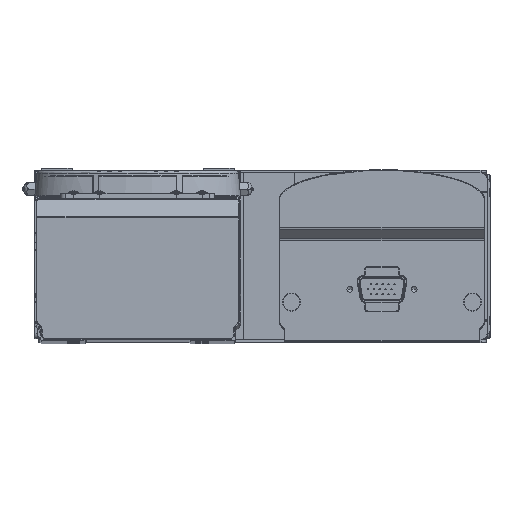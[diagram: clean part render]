
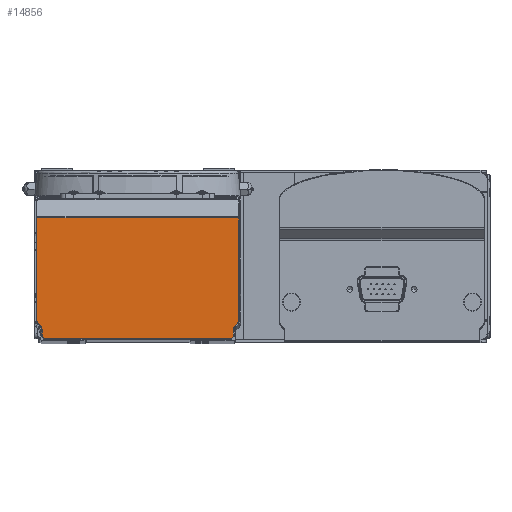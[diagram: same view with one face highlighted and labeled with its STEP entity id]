
A CAD part, top view. The second image highlights one B-rep face of the part: STEP entity #14856.
In plain terms, the highlighted planar face has unit normal (0, 0, 1).
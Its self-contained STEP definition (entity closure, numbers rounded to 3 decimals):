
#615 = VECTOR ( 'NONE', #140060, 1000. ) ;
#904 = CARTESIAN_POINT ( 'NONE',  ( -38.702, -15.374, 1010. ) ) ;
#3119 = VECTOR ( 'NONE', #106399, 1000. ) ;
#5246 = LINE ( 'NONE', #48528, #22960 ) ;
#5296 = ORIENTED_EDGE ( 'NONE', *, *, #52014, .T. ) ;
#5648 = CARTESIAN_POINT ( 'NONE',  ( -39.2, 25.586, 1010. ) ) ;
#7243 = CARTESIAN_POINT ( 'NONE',  ( 39.5, -17.828, 1010. ) ) ;
#7951 = EDGE_CURVE ( 'NONE', #119888, #96300, #84612, .T. ) ;
#8764 = EDGE_CURVE ( 'NONE', #121553, #95098, #71357, .T. ) ;
#9330 = ORIENTED_EDGE ( 'NONE', *, *, #106676, .T. ) ;
#9962 = ORIENTED_EDGE ( 'NONE', *, *, #99628, .T. ) ;
#10052 = CARTESIAN_POINT ( 'NONE',  ( -36.376, -21.2, 1010. ) ) ;
#10500 = EDGE_CURVE ( 'NONE', #96300, #115341, #69114, .T. ) ;
#11830 = LINE ( 'NONE', #55131, #100243 ) ;
#14856 = ADVANCED_FACE ( 'NONE', ( #25621 ), #68832, .F. ) ;
#14975 = DIRECTION ( 'NONE',  ( 0., 0., -1. ) ) ;
#15242 = DIRECTION ( 'NONE',  ( 0.707, -0.707, 0. ) ) ;
#16020 = CARTESIAN_POINT ( 'NONE',  ( 38.702, -15.374, 1010. ) ) ;
#17266 = ORIENTED_EDGE ( 'NONE', *, *, #47871, .T. ) ;
#17489 = DIRECTION ( 'NONE',  ( 1., 0., 0. ) ) ;
#17974 = DIRECTION ( 'NONE',  ( -1., 0., 0. ) ) ;
#19954 = LINE ( 'NONE', #63217, #3119 ) ;
#20367 = AXIS2_PLACEMENT_3D ( 'NONE', #7243, #50529, #93690 ) ;
#22960 = VECTOR ( 'NONE', #91689, 1000. ) ;
#25282 = EDGE_CURVE ( 'NONE', #59262, #94664, #5246, .T. ) ;
#25554 = DIRECTION ( 'NONE',  ( -1., 0., 0. ) ) ;
#25621 = FACE_OUTER_BOUND ( 'NONE', #36667, .T. ) ;
#28395 = CARTESIAN_POINT ( 'NONE',  ( -37.2, -17.828, 1010. ) ) ;
#28584 = DIRECTION ( 'NONE',  ( 0., -1., 0. ) ) ;
#29966 = ORIENTED_EDGE ( 'NONE', *, *, #7951, .T. ) ;
#30420 = EDGE_CURVE ( 'NONE', #115341, #88671, #130183, .T. ) ;
#30658 = LINE ( 'NONE', #73852, #64216 ) ;
#31113 = DIRECTION ( 'NONE',  ( -1., 0., 0. ) ) ;
#35698 = ORIENTED_EDGE ( 'NONE', *, *, #80623, .T. ) ;
#36667 = EDGE_LOOP ( 'NONE', ( #110383, #53583, #55511, #139529, #29966, #53063, #115733, #5296, #9330, #38387, #9962, #17266, #35698, #139975 ) ) ;
#36997 = CARTESIAN_POINT ( 'NONE',  ( 37.5, -14.172, 1010. ) ) ;
#37943 = CARTESIAN_POINT ( 'NONE',  ( -36.288, -21.288, 1010. ) ) ;
#38387 = ORIENTED_EDGE ( 'NONE', *, *, #8764, .T. ) ;
#40908 = VECTOR ( 'NONE', #31113, 1000. ) ;
#40912 = CARTESIAN_POINT ( 'NONE',  ( 37.874, -16.202, 1010. ) ) ;
#42238 = CIRCLE ( 'NONE', #121398, 1.7 ) ;
#44230 = VERTEX_POINT ( 'NONE', #138049 ) ;
#47871 = EDGE_CURVE ( 'NONE', #123025, #70790, #11830, .T. ) ;
#48528 = CARTESIAN_POINT ( 'NONE',  ( 31.538, -22.538, 1010. ) ) ;
#50529 = DIRECTION ( 'NONE',  ( 0., 0., -1. ) ) ;
#52014 = EDGE_CURVE ( 'NONE', #88671, #111850, #82384, .T. ) ;
#53063 = ORIENTED_EDGE ( 'NONE', *, *, #10500, .T. ) ;
#53386 = VECTOR ( 'NONE', #15242, 1000. ) ;
#53583 = ORIENTED_EDGE ( 'NONE', *, *, #108262, .T. ) ;
#53725 = LINE ( 'NONE', #96877, #615 ) ;
#54436 = CARTESIAN_POINT ( 'NONE',  ( -37.874, -16.202, 1010. ) ) ;
#55131 = CARTESIAN_POINT ( 'NONE',  ( 37.2, 9., 1010. ) ) ;
#55511 = ORIENTED_EDGE ( 'NONE', *, *, #131791, .T. ) ;
#58252 = DIRECTION ( 'NONE',  ( -1., 0., 0. ) ) ;
#59262 = VERTEX_POINT ( 'NONE', #40912 ) ;
#63217 = CARTESIAN_POINT ( 'NONE',  ( 37.288, -20.288, 1010. ) ) ;
#64216 = VECTOR ( 'NONE', #117058, 1000. ) ;
#64698 = VECTOR ( 'NONE', #17489, 1000. ) ;
#65396 = CARTESIAN_POINT ( 'NONE',  ( 37.2, -20.376, 1010. ) ) ;
#67549 = CARTESIAN_POINT ( 'NONE',  ( -37.2, -20.376, 1010. ) ) ;
#68832 = PLANE ( 'NONE',  #122669 ) ;
#69093 = AXIS2_PLACEMENT_3D ( 'NONE', #79396, #122640, #25554 ) ;
#69114 = LINE ( 'NONE', #112322, #53386 ) ;
#70790 = VERTEX_POINT ( 'NONE', #105468 ) ;
#71357 = LINE ( 'NONE', #114575, #64698 ) ;
#71878 = CARTESIAN_POINT ( 'NONE',  ( -37.5, -14.172, 1010. ) ) ;
#73852 = CARTESIAN_POINT ( 'NONE',  ( -39.2, 9., 1010. ) ) ;
#74984 = VECTOR ( 'NONE', #81114, 1000. ) ;
#75313 = EDGE_CURVE ( 'NONE', #94664, #44230, #42238, .T. ) ;
#78278 = VERTEX_POINT ( 'NONE', #5648 ) ;
#79396 = CARTESIAN_POINT ( 'NONE',  ( -39.5, -17.828, 1010. ) ) ;
#80169 = DIRECTION ( 'NONE',  ( 0., 0., 1. ) ) ;
#80623 = EDGE_CURVE ( 'NONE', #70790, #59262, #81500, .T. ) ;
#81114 = DIRECTION ( 'NONE',  ( 0.707, -0.707, 0. ) ) ;
#81500 = CIRCLE ( 'NONE', #20367, 2.3 ) ;
#82384 = LINE ( 'NONE', #125660, #125812 ) ;
#84213 = AXIS2_PLACEMENT_3D ( 'NONE', #71878, #115078, #17974 ) ;
#84612 = CIRCLE ( 'NONE', #84213, 1.7 ) ;
#84898 = LINE ( 'NONE', #128157, #40908 ) ;
#88671 = VERTEX_POINT ( 'NONE', #28395 ) ;
#91493 = CARTESIAN_POINT ( 'NONE',  ( 39.2, 25.586, 1010. ) ) ;
#91689 = DIRECTION ( 'NONE',  ( 0.707, 0.707, 0. ) ) ;
#93690 = DIRECTION ( 'NONE',  ( -1., 0., 0. ) ) ;
#94664 = VERTEX_POINT ( 'NONE', #16020 ) ;
#95098 = VERTEX_POINT ( 'NONE', #124303 ) ;
#96300 = VERTEX_POINT ( 'NONE', #904 ) ;
#96877 = CARTESIAN_POINT ( 'NONE',  ( 39.2, 9., 1010. ) ) ;
#98275 = DIRECTION ( 'NONE',  ( 0., 1., 0. ) ) ;
#99623 = EDGE_CURVE ( 'NONE', #78278, #119888, #30658, .T. ) ;
#99628 = EDGE_CURVE ( 'NONE', #95098, #123025, #19954, .T. ) ;
#100243 = VECTOR ( 'NONE', #98275, 1000. ) ;
#105468 = CARTESIAN_POINT ( 'NONE',  ( 37.2, -17.828, 1010. ) ) ;
#106399 = DIRECTION ( 'NONE',  ( 0.707, 0.707, 0. ) ) ;
#106676 = EDGE_CURVE ( 'NONE', #111850, #121553, #134959, .T. ) ;
#108262 = EDGE_CURVE ( 'NONE', #44230, #129682, #53725, .T. ) ;
#110383 = ORIENTED_EDGE ( 'NONE', *, *, #75313, .T. ) ;
#111850 = VERTEX_POINT ( 'NONE', #67549 ) ;
#112048 = CARTESIAN_POINT ( 'NONE',  ( 0., 9., 1010. ) ) ;
#112322 = CARTESIAN_POINT ( 'NONE',  ( -31.538, -22.538, 1010. ) ) ;
#114575 = CARTESIAN_POINT ( 'NONE',  ( 0., -21.2, 1010. ) ) ;
#115078 = DIRECTION ( 'NONE',  ( 0., 0., 1. ) ) ;
#115341 = VERTEX_POINT ( 'NONE', #54436 ) ;
#115733 = ORIENTED_EDGE ( 'NONE', *, *, #30420, .T. ) ;
#117058 = DIRECTION ( 'NONE',  ( 0., -1., 0. ) ) ;
#119888 = VERTEX_POINT ( 'NONE', #129113 ) ;
#121398 = AXIS2_PLACEMENT_3D ( 'NONE', #36997, #80169, #123424 ) ;
#121553 = VERTEX_POINT ( 'NONE', #10052 ) ;
#122640 = DIRECTION ( 'NONE',  ( 0., 0., -1. ) ) ;
#122669 = AXIS2_PLACEMENT_3D ( 'NONE', #112048, #14975, #58252 ) ;
#123025 = VERTEX_POINT ( 'NONE', #65396 ) ;
#123424 = DIRECTION ( 'NONE',  ( -1., 0., 0. ) ) ;
#124303 = CARTESIAN_POINT ( 'NONE',  ( 36.376, -21.2, 1010. ) ) ;
#125660 = CARTESIAN_POINT ( 'NONE',  ( -37.2, 9., 1010. ) ) ;
#125812 = VECTOR ( 'NONE', #28584, 1000. ) ;
#128157 = CARTESIAN_POINT ( 'NONE',  ( -39.5, 25.586, 1010. ) ) ;
#129113 = CARTESIAN_POINT ( 'NONE',  ( -39.2, -14.172, 1010. ) ) ;
#129682 = VERTEX_POINT ( 'NONE', #91493 ) ;
#130183 = CIRCLE ( 'NONE', #69093, 2.3 ) ;
#131791 = EDGE_CURVE ( 'NONE', #129682, #78278, #84898, .T. ) ;
#134959 = LINE ( 'NONE', #37943, #74984 ) ;
#138049 = CARTESIAN_POINT ( 'NONE',  ( 39.2, -14.172, 1010. ) ) ;
#139529 = ORIENTED_EDGE ( 'NONE', *, *, #99623, .T. ) ;
#139975 = ORIENTED_EDGE ( 'NONE', *, *, #25282, .T. ) ;
#140060 = DIRECTION ( 'NONE',  ( 0., 1., 0. ) ) ;
